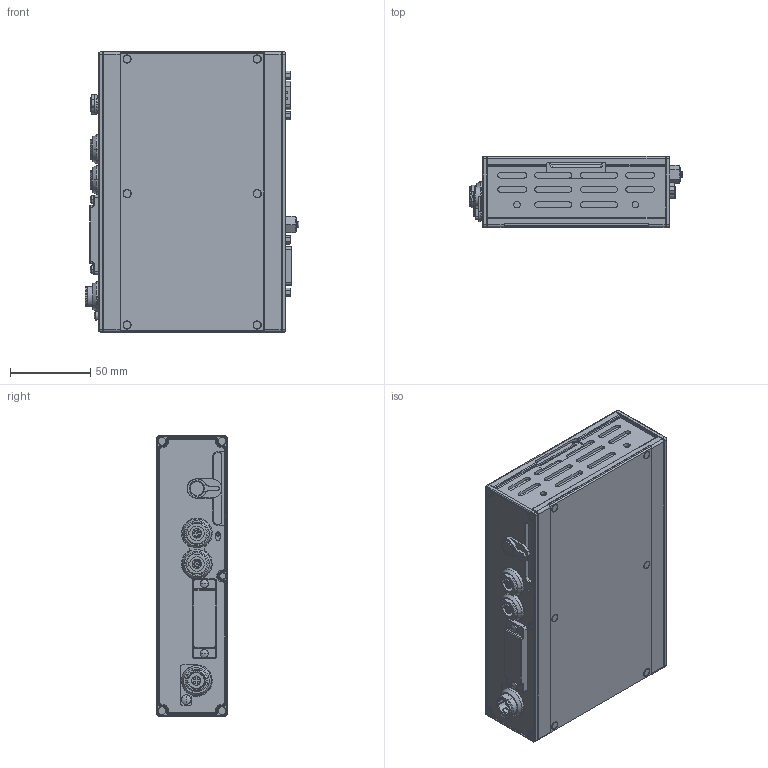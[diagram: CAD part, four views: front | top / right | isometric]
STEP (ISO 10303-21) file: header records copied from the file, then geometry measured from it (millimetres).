
FILE_DESCRIPTION((''),'2;1');
FILE_NAME('1_CX22B_STEP_SW0002','2017-09-27T',('jeblick'),(''),'CREO PARAMETRIC BY PTC INC, 2015290','CREO PARAMETRIC BY PTC INC, 2015290','');
FILE_SCHEMA(('CONFIG_CONTROL_DESIGN'));
Products named in the file (1): 1_CX22B_STEP_SW0002
Bounding box: 132.7 x 44 x 174 mm (x, y, z)
Volume: 861331.6 mm3; surface area: 88082.1 mm2
Topology: 1 solids, 1 shells, 2798 faces, 7320 edges, 4690 vertices
Faces by surface type: bspline 2798
Entity records: 127467 total; most frequent: CARTESIAN_POINT 46553, ORIENTED_EDGE 14588, DIRECTION 8934, EDGE_CURVE 7294, VECTOR 4950, LINE 4950, VERTEX_POINT 4690, EDGE_LOOP 3112
